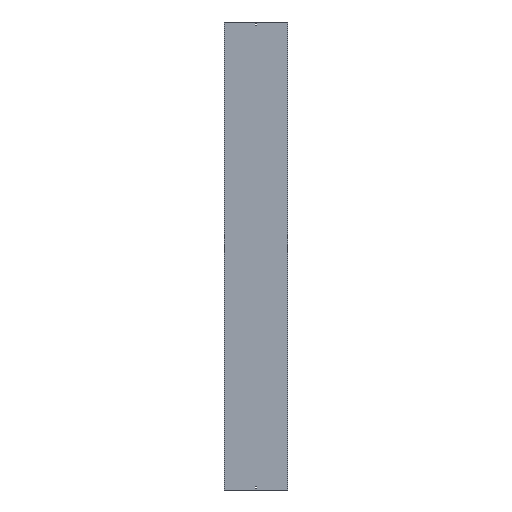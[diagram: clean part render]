
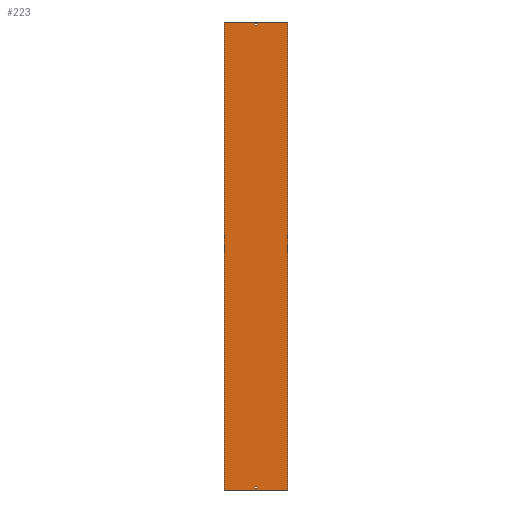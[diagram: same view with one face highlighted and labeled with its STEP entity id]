
A CAD part, front view. The second image highlights one B-rep face of the part: STEP entity #223.
In plain terms, the highlighted planar face has unit normal (0, -1, 0).
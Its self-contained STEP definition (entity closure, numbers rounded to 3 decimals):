
#42 = CARTESIAN_POINT ( 'NONE',  ( -202., 0., 1500. ) ) ;
#77 = CARTESIAN_POINT ( 'NONE',  ( -202., 0., -1500. ) ) ;
#108 = ORIENTED_EDGE ( 'NONE', *, *, #1475, .T. ) ;
#119 = ORIENTED_EDGE ( 'NONE', *, *, #2541, .F. ) ;
#190 = CARTESIAN_POINT ( 'NONE',  ( -3.25, 0., -1479. ) ) ;
#205 = DIRECTION ( 'NONE',  ( 0., 0., -1. ) ) ;
#206 = ORIENTED_EDGE ( 'NONE', *, *, #1406, .T. ) ;
#209 = CARTESIAN_POINT ( 'NONE',  ( -3.25, 0., 1488. ) ) ;
#223 = ADVANCED_FACE ( 'NONE', ( #1087, #2413, #1740 ), #2385, .F. ) ;
#277 = DIRECTION ( 'NONE',  ( 0., 1., 0. ) ) ;
#362 = CARTESIAN_POINT ( 'NONE',  ( 3.25, 0., -1488. ) ) ;
#368 = VERTEX_POINT ( 'NONE', #362 ) ;
#418 = EDGE_LOOP ( 'NONE', ( #1110, #960, #108, #1247 ) ) ;
#438 = CARTESIAN_POINT ( 'NONE',  ( -3.25, 0., -1488. ) ) ;
#474 = DIRECTION ( 'NONE',  ( -1., 0., 0. ) ) ;
#514 = VERTEX_POINT ( 'NONE', #209 ) ;
#550 = VECTOR ( 'NONE', #1108, 1000. ) ;
#558 = LINE ( 'NONE', #2457, #729 ) ;
#561 = LINE ( 'NONE', #2685, #1666 ) ;
#618 = EDGE_CURVE ( 'NONE', #368, #1279, #1944, .T. ) ;
#646 = VECTOR ( 'NONE', #1624, 1000. ) ;
#650 = CARTESIAN_POINT ( 'NONE',  ( -202., 0., 1500. ) ) ;
#675 = LINE ( 'NONE', #42, #2110 ) ;
#724 = VECTOR ( 'NONE', #1105, 1000. ) ;
#729 = VECTOR ( 'NONE', #1391, 1000. ) ;
#732 = VECTOR ( 'NONE', #2103, 1000. ) ;
#776 = EDGE_CURVE ( 'NONE', #1680, #1448, #2710, .T. ) ;
#781 = CARTESIAN_POINT ( 'NONE',  ( 202., 0., -1500. ) ) ;
#789 = EDGE_CURVE ( 'NONE', #514, #2748, #1251, .T. ) ;
#825 = VERTEX_POINT ( 'NONE', #2101 ) ;
#826 = DIRECTION ( 'NONE',  ( 0., 0., 1. ) ) ;
#911 = DIRECTION ( 'NONE',  ( 1., 0., 0. ) ) ;
#929 = ORIENTED_EDGE ( 'NONE', *, *, #1910, .F. ) ;
#960 = ORIENTED_EDGE ( 'NONE', *, *, #776, .T. ) ;
#964 = LINE ( 'NONE', #2263, #646 ) ;
#994 = EDGE_CURVE ( 'NONE', #995, #825, #675, .T. ) ;
#995 = VERTEX_POINT ( 'NONE', #650 ) ;
#1023 = VERTEX_POINT ( 'NONE', #2438 ) ;
#1029 = ORIENTED_EDGE ( 'NONE', *, *, #994, .F. ) ;
#1045 = EDGE_LOOP ( 'NONE', ( #2213, #1864, #1029, #206 ) ) ;
#1047 = VECTOR ( 'NONE', #1869, 1000. ) ;
#1085 = CARTESIAN_POINT ( 'NONE',  ( -3.25, 0., -1479. ) ) ;
#1087 = FACE_OUTER_BOUND ( 'NONE', #1045, .T. ) ;
#1105 = DIRECTION ( 'NONE',  ( -1., 0., 0. ) ) ;
#1108 = DIRECTION ( 'NONE',  ( 1., 0., 0. ) ) ;
#1110 = ORIENTED_EDGE ( 'NONE', *, *, #1928, .T. ) ;
#1247 = ORIENTED_EDGE ( 'NONE', *, *, #618, .T. ) ;
#1251 = LINE ( 'NONE', #2735, #1525 ) ;
#1269 = LINE ( 'NONE', #1907, #732 ) ;
#1279 = VERTEX_POINT ( 'NONE', #438 ) ;
#1301 = AXIS2_PLACEMENT_3D ( 'NONE', #1769, #277, #474 ) ;
#1303 = VECTOR ( 'NONE', #2324, 1000. ) ;
#1336 = CARTESIAN_POINT ( 'NONE',  ( -3.25, 0., 1479. ) ) ;
#1391 = DIRECTION ( 'NONE',  ( -1., 0., 0. ) ) ;
#1406 = EDGE_CURVE ( 'NONE', #995, #1749, #1758, .T. ) ;
#1442 = CARTESIAN_POINT ( 'NONE',  ( -3.25, 0., 1479. ) ) ;
#1448 = VERTEX_POINT ( 'NONE', #2262 ) ;
#1475 = EDGE_CURVE ( 'NONE', #1448, #368, #561, .T. ) ;
#1525 = VECTOR ( 'NONE', #205, 1000. ) ;
#1624 = DIRECTION ( 'NONE',  ( 0., 0., 1. ) ) ;
#1666 = VECTOR ( 'NONE', #2660, 1000. ) ;
#1680 = VERTEX_POINT ( 'NONE', #1085 ) ;
#1704 = EDGE_CURVE ( 'NONE', #1749, #2299, #1972, .T. ) ;
#1737 = ORIENTED_EDGE ( 'NONE', *, *, #2620, .F. ) ;
#1740 = FACE_BOUND ( 'NONE', #418, .T. ) ;
#1742 = DIRECTION ( 'NONE',  ( 0., 0., -1. ) ) ;
#1749 = VERTEX_POINT ( 'NONE', #2186 ) ;
#1758 = LINE ( 'NONE', #2415, #2063 ) ;
#1769 = CARTESIAN_POINT ( 'NONE',  ( -202., 0., 1500. ) ) ;
#1864 = ORIENTED_EDGE ( 'NONE', *, *, #1974, .F. ) ;
#1869 = DIRECTION ( 'NONE',  ( 1., 0., 0. ) ) ;
#1893 = VERTEX_POINT ( 'NONE', #2017 ) ;
#1907 = CARTESIAN_POINT ( 'NONE',  ( 202., 0., 1500. ) ) ;
#1910 = EDGE_CURVE ( 'NONE', #1023, #514, #558, .T. ) ;
#1928 = EDGE_CURVE ( 'NONE', #1279, #1680, #2503, .T. ) ;
#1944 = LINE ( 'NONE', #2584, #724 ) ;
#1972 = LINE ( 'NONE', #77, #550 ) ;
#1974 = EDGE_CURVE ( 'NONE', #825, #2299, #1269, .T. ) ;
#2017 = CARTESIAN_POINT ( 'NONE',  ( 3.25, 0., 1479. ) ) ;
#2063 = VECTOR ( 'NONE', #1742, 1000. ) ;
#2101 = CARTESIAN_POINT ( 'NONE',  ( 202., 0., 1500. ) ) ;
#2103 = DIRECTION ( 'NONE',  ( 0., 0., -1. ) ) ;
#2110 = VECTOR ( 'NONE', #911, 1000. ) ;
#2186 = CARTESIAN_POINT ( 'NONE',  ( -202., 0., -1500. ) ) ;
#2213 = ORIENTED_EDGE ( 'NONE', *, *, #1704, .T. ) ;
#2262 = CARTESIAN_POINT ( 'NONE',  ( 3.25, 0., -1479. ) ) ;
#2263 = CARTESIAN_POINT ( 'NONE',  ( 3.25, 0., 1488. ) ) ;
#2299 = VERTEX_POINT ( 'NONE', #781 ) ;
#2324 = DIRECTION ( 'NONE',  ( 1., 0., 0. ) ) ;
#2334 = VECTOR ( 'NONE', #826, 1000. ) ;
#2385 = PLANE ( 'NONE',  #1301 ) ;
#2393 = EDGE_LOOP ( 'NONE', ( #1737, #2496, #929, #119 ) ) ;
#2413 = FACE_BOUND ( 'NONE', #2393, .T. ) ;
#2415 = CARTESIAN_POINT ( 'NONE',  ( -202., 0., 1500. ) ) ;
#2438 = CARTESIAN_POINT ( 'NONE',  ( 3.25, 0., 1488. ) ) ;
#2457 = CARTESIAN_POINT ( 'NONE',  ( -3.25, 0., 1488. ) ) ;
#2496 = ORIENTED_EDGE ( 'NONE', *, *, #789, .F. ) ;
#2503 = LINE ( 'NONE', #2533, #2334 ) ;
#2507 = LINE ( 'NONE', #1442, #1047 ) ;
#2533 = CARTESIAN_POINT ( 'NONE',  ( -3.25, 0., -1488. ) ) ;
#2541 = EDGE_CURVE ( 'NONE', #1893, #1023, #964, .T. ) ;
#2584 = CARTESIAN_POINT ( 'NONE',  ( -3.25, 0., -1488. ) ) ;
#2620 = EDGE_CURVE ( 'NONE', #2748, #1893, #2507, .T. ) ;
#2660 = DIRECTION ( 'NONE',  ( 0., 0., -1. ) ) ;
#2685 = CARTESIAN_POINT ( 'NONE',  ( 3.25, 0., -1488. ) ) ;
#2710 = LINE ( 'NONE', #190, #1303 ) ;
#2735 = CARTESIAN_POINT ( 'NONE',  ( -3.25, 0., 1488. ) ) ;
#2748 = VERTEX_POINT ( 'NONE', #1336 ) ;
